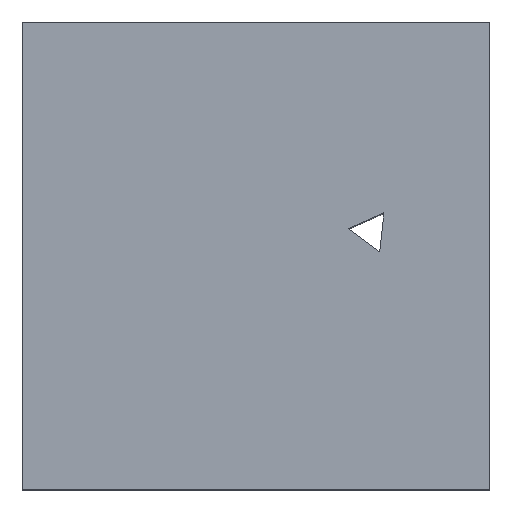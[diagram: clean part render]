
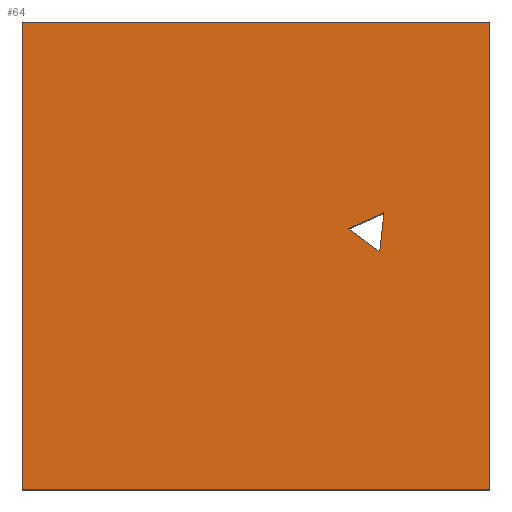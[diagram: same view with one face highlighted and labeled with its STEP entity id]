
A CAD part, top view. The second image highlights one B-rep face of the part: STEP entity #64.
In plain terms, the highlighted planar face has unit normal (0, 0, 1).
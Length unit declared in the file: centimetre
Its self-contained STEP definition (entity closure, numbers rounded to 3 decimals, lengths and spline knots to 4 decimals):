
#6 = ORIENTED_EDGE ( 'NONE', *, *, #325, .T. ) ;
#7 = CARTESIAN_POINT ( 'NONE',  ( 0., 1000., 1000. ) ) ;
#11 = CARTESIAN_POINT ( 'NONE',  ( 0., 1000., 1000. ) ) ;
#25 = EDGE_CURVE ( 'NONE', #217, #273, #266, .T. ) ;
#28 = CARTESIAN_POINT ( 'NONE',  ( 764.6798, 508.2015, 1000. ) ) ;
#37 = CARTESIAN_POINT ( 'NONE',  ( 697.1333, 557.6705, 1000. ) ) ;
#38 = ORIENTED_EDGE ( 'NONE', *, *, #476, .T. ) ;
#43 = VERTEX_POINT ( 'NONE', #257 ) ;
#52 = EDGE_CURVE ( 'NONE', #470, #217, #345, .T. ) ;
#57 = VECTOR ( 'NONE', #86, 100. ) ;
#59 = FACE_OUTER_BOUND ( 'NONE', #314, .T. ) ;
#64 = ADVANCED_FACE ( 'NONE', ( #340, #59 ), #497, .T. ) ;
#72 = DIRECTION ( 'NONE',  ( -0.807, 0.591, 0. ) ) ;
#86 = DIRECTION ( 'NONE',  ( 0.915, 0.403, 0. ) ) ;
#94 = LINE ( 'NONE', #11, #154 ) ;
#100 = CARTESIAN_POINT ( 'NONE',  ( 0., 0., 1000. ) ) ;
#104 = VERTEX_POINT ( 'NONE', #457 ) ;
#109 = CARTESIAN_POINT ( 'NONE',  ( 764.6798, 508.2015, 1000. ) ) ;
#126 = CARTESIAN_POINT ( 'NONE',  ( 0., 1000., 1000. ) ) ;
#133 = CARTESIAN_POINT ( 'NONE',  ( 0., 0., 1000. ) ) ;
#152 = ORIENTED_EDGE ( 'NONE', *, *, #52, .T. ) ;
#154 = VECTOR ( 'NONE', #251, 100. ) ;
#156 = ORIENTED_EDGE ( 'NONE', *, *, #291, .T. ) ;
#160 = DIRECTION ( 'NONE',  ( 0., -1., 0. ) ) ;
#175 = VERTEX_POINT ( 'NONE', #452 ) ;
#217 = VERTEX_POINT ( 'NONE', #109 ) ;
#221 = AXIS2_PLACEMENT_3D ( 'NONE', #100, #337, #295 ) ;
#236 = LINE ( 'NONE', #7, #250 ) ;
#242 = ORIENTED_EDGE ( 'NONE', *, *, #434, .T. ) ;
#250 = VECTOR ( 'NONE', #160, 100. ) ;
#251 = DIRECTION ( 'NONE',  ( -1., 0., 0. ) ) ;
#257 = CARTESIAN_POINT ( 'NONE',  ( 1000., 0., 1000. ) ) ;
#266 = LINE ( 'NONE', #418, #332 ) ;
#273 = VERTEX_POINT ( 'NONE', #37 ) ;
#288 = DIRECTION ( 'NONE',  ( 1., 0., 0. ) ) ;
#291 = EDGE_CURVE ( 'NONE', #273, #470, #465, .T. ) ;
#295 = DIRECTION ( 'NONE',  ( 1., 0., 0. ) ) ;
#304 = EDGE_LOOP ( 'NONE', ( #152, #346, #156 ) ) ;
#314 = EDGE_LOOP ( 'NONE', ( #6, #242, #362, #38 ) ) ;
#319 = LINE ( 'NONE', #347, #335 ) ;
#322 = VECTOR ( 'NONE', #288, 100. ) ;
#325 = EDGE_CURVE ( 'NONE', #453, #104, #236, .T. ) ;
#328 = EDGE_CURVE ( 'NONE', #43, #175, #319, .T. ) ;
#332 = VECTOR ( 'NONE', #72, 100. ) ;
#335 = VECTOR ( 'NONE', #386, 100. ) ;
#337 = DIRECTION ( 'NONE',  ( 0., 0., 1. ) ) ;
#340 = FACE_BOUND ( 'NONE', #304, .T. ) ;
#345 = LINE ( 'NONE', #28, #406 ) ;
#346 = ORIENTED_EDGE ( 'NONE', *, *, #25, .T. ) ;
#347 = CARTESIAN_POINT ( 'NONE',  ( 1000., 1000., 1000. ) ) ;
#362 = ORIENTED_EDGE ( 'NONE', *, *, #328, .T. ) ;
#386 = DIRECTION ( 'NONE',  ( 0., 1., 0. ) ) ;
#406 = VECTOR ( 'NONE', #415, 100. ) ;
#415 = DIRECTION ( 'NONE',  ( -0.108, -0.994, 0. ) ) ;
#418 = CARTESIAN_POINT ( 'NONE',  ( 697.1333, 557.6705, 1000. ) ) ;
#428 = CARTESIAN_POINT ( 'NONE',  ( 773.7479, 591.433, 1000. ) ) ;
#434 = EDGE_CURVE ( 'NONE', #104, #43, #475, .T. ) ;
#443 = CARTESIAN_POINT ( 'NONE',  ( 773.7479, 591.433, 1000. ) ) ;
#452 = CARTESIAN_POINT ( 'NONE',  ( 1000., 1000., 1000. ) ) ;
#453 = VERTEX_POINT ( 'NONE', #126 ) ;
#457 = CARTESIAN_POINT ( 'NONE',  ( 0., 0., 1000. ) ) ;
#465 = LINE ( 'NONE', #428, #57 ) ;
#470 = VERTEX_POINT ( 'NONE', #443 ) ;
#475 = LINE ( 'NONE', #133, #322 ) ;
#476 = EDGE_CURVE ( 'NONE', #175, #453, #94, .T. ) ;
#497 = PLANE ( 'NONE',  #221 ) ;
